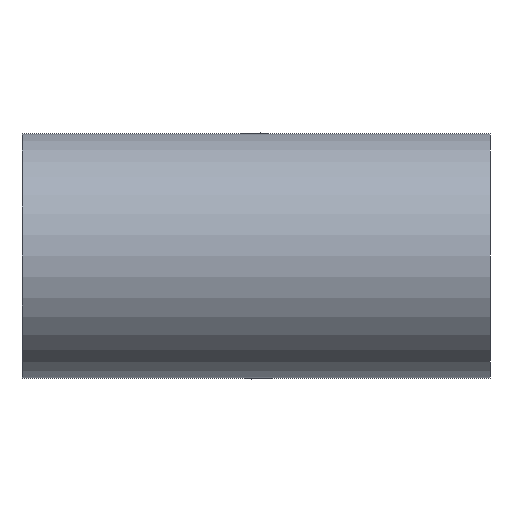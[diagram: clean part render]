
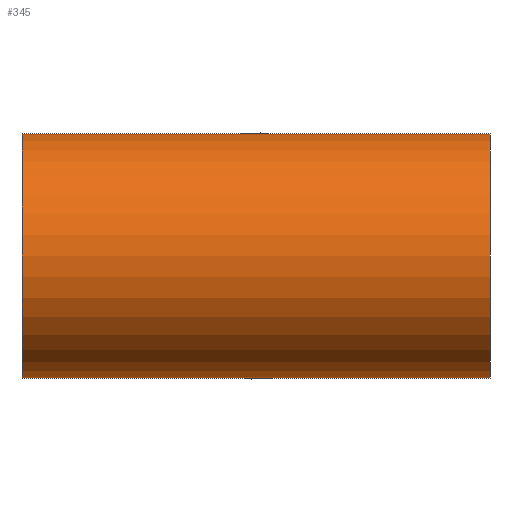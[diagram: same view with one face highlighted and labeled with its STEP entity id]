
A CAD part, left-side view. The second image highlights one B-rep face of the part: STEP entity #345.
In plain terms, the highlighted cylindrical face has radius 17 mm (diameter 34 mm), a full revolution.
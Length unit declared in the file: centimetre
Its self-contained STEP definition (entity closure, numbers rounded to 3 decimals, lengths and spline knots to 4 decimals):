
#54=FACE_BOUND('',#132,.T.);
#55=FACE_BOUND('',#133,.T.);
#78=CIRCLE('',#384,1.7);
#79=CIRCLE('',#385,1.7);
#99=FACE_OUTER_BOUND('',#131,.T.);
#131=EDGE_LOOP('',(#274));
#132=EDGE_LOOP('',(#275,#276));
#133=EDGE_LOOP('',(#277));
#151=ELLIPSE('',#357,2.4042,1.7);
#152=ELLIPSE('',#358,2.4042,1.7);
#155=VERTEX_POINT('',#489);
#156=VERTEX_POINT('',#490);
#179=VERTEX_POINT('',#3843);
#180=VERTEX_POINT('',#3845);
#185=EDGE_CURVE('',#155,#156,#151,.T.);
#186=EDGE_CURVE('',#156,#155,#152,.T.);
#216=EDGE_CURVE('',#179,#179,#78,.T.);
#217=EDGE_CURVE('',#180,#180,#79,.T.);
#274=ORIENTED_EDGE('',*,*,#216,.F.);
#275=ORIENTED_EDGE('',*,*,#185,.T.);
#276=ORIENTED_EDGE('',*,*,#186,.T.);
#277=ORIENTED_EDGE('',*,*,#217,.F.);
#301=CYLINDRICAL_SURFACE('',#383,1.7);
#345=ADVANCED_FACE('',(#99,#54,#55),#301,.T.);
#357=AXIS2_PLACEMENT_3D('',#491,#402,#403);
#358=AXIS2_PLACEMENT_3D('',#492,#404,#405);
#383=AXIS2_PLACEMENT_3D('',#3842,#457,#458);
#384=AXIS2_PLACEMENT_3D('',#3844,#459,#460);
#385=AXIS2_PLACEMENT_3D('',#3846,#461,#462);
#402=DIRECTION('center_axis',(-0.707,0.707,0.));
#403=DIRECTION('ref_axis',(0.707,0.707,0.));
#404=DIRECTION('center_axis',(-0.707,-0.707,0.));
#405=DIRECTION('ref_axis',(-0.707,0.707,0.));
#457=DIRECTION('center_axis',(0.,-1.,0.));
#458=DIRECTION('ref_axis',(1.,0.,0.));
#459=DIRECTION('center_axis',(0.,1.,0.));
#460=DIRECTION('ref_axis',(1.,0.,0.));
#461=DIRECTION('center_axis',(0.,-1.,0.));
#462=DIRECTION('ref_axis',(1.,0.,0.));
#489=CARTESIAN_POINT('',(0.,0.,1.7));
#490=CARTESIAN_POINT('',(0.,0.,-1.7));
#491=CARTESIAN_POINT('Origin',(0.,0.,0.));
#492=CARTESIAN_POINT('Origin',(0.,0.,0.));
#3842=CARTESIAN_POINT('Origin',(0.,0.,0.));
#3843=CARTESIAN_POINT('',(-1.7,3.25,0.));
#3844=CARTESIAN_POINT('Origin',(0.,3.25,0.));
#3845=CARTESIAN_POINT('',(-1.7,-3.25,0.));
#3846=CARTESIAN_POINT('Origin',(0.,-3.25,0.));
